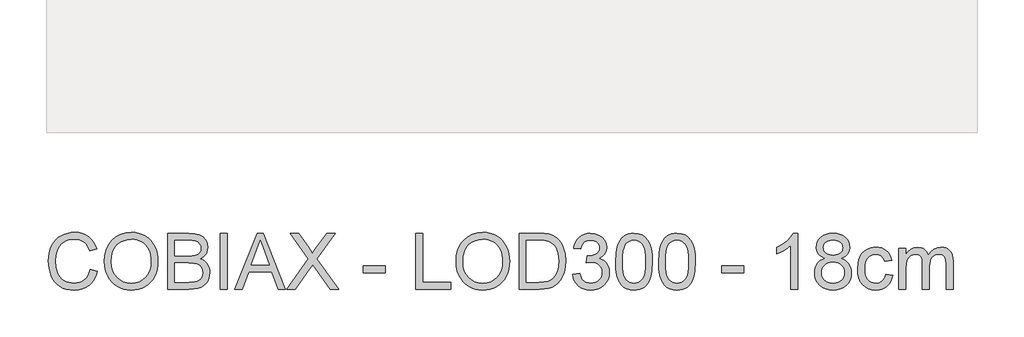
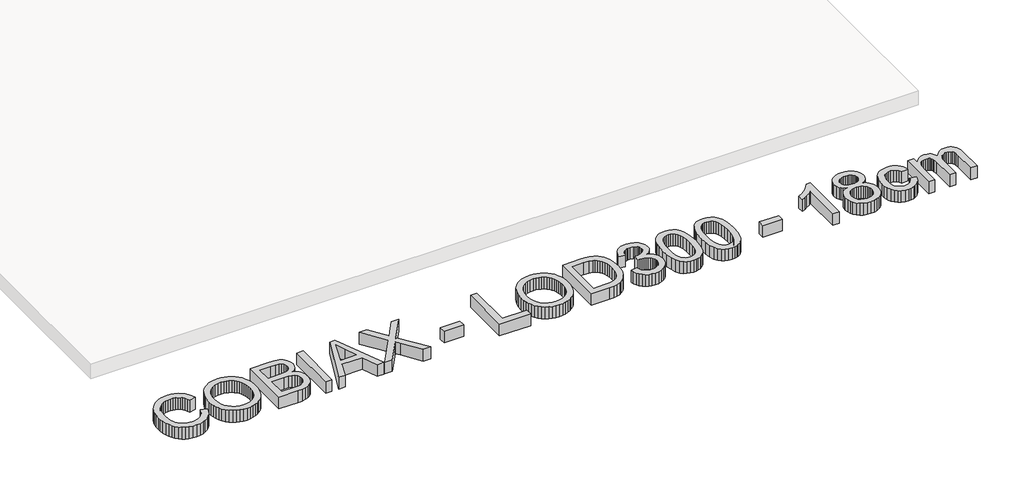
# One storey, part 17 of 18: 1 proxy.
"""IFC4 building model written with IfcOpenShell, lengths in millimetres."""

from ifc_helpers import new_model, si_unit, origin, origin_with_axes, place, context, project, spatial, polyline, outline, extrude, element, save

model = new_model("IFC4")

# Units and contexts
model_context = context("Model", 3, world=origin())
ifc_project = project(units=[si_unit("LENGTHUNIT", "METRE", prefix="MILLI")], contexts=[model_context])

# Site, building, storey
site = spatial("IfcSite", under=ifc_project)
building = spatial("IfcBuilding", under=site)
storey = spatial("IfcBuildingStorey", under=building, Name="COBIAX Slabs", Elevation=0.0)

# Proxy
placement = place(None, origin())
element("IfcBuildingElementProxy", 1, Name="600mm Arial", ObjectType="600mm Arial", at=placement, inside=storey, context=model_context, shape_type="SweptSolid", body=[
    extrude(outline(polyline([(-5201.7846047, 9905.258219), (-5126.4423721, 9885.8340497), (-5141.35079, 9838.9796791), (-5161.2072206, 9798.0390115), (-5186.0116642, 9763.0120471), (-5215.7641205, 9733.8987857), (-5249.7932051, 9711.0119271), (-5287.4275332, 9694.6641709), (-5328.6671048, 9684.8555172), (-5373.5119201, 9681.585966), (-5419.4557827, 9684.0599724), (-5460.902288, 9691.4819916), (-5497.8514359, 9703.8520237), (-5530.3032264, 9721.1700687), (-5558.7037164, 9743.178609), (-5583.4989629, 9769.6201274), (-5604.6889658, 9800.4946239), (-5622.2737252, 9835.8020983), (-5636.0830956, 9874.0158406), (-5645.9469316, 9913.6091403), (-5651.8652332, 9954.5819975), (-5653.8380004, 9996.9344122), (-5651.6077158, 10042.3770357), (-5644.916862, 10084.8214209), (-5633.765439, 10124.2675678), (-5618.1534469, 10160.7154765), (-5598.4303734, 10193.5627401), (-5574.9457065, 10222.206952), (-5547.6994462, 10246.648112), (-5516.6915926, 10266.8862203), (-5482.9752077, 10282.7557299), (-5447.6033539, 10294.0910938), (-5410.5760311, 10300.8923122), (-5371.8932393, 10303.159385), (-5328.8004621, 10300.2255261), (-5289.2853373, 10291.4239494), (-5253.3478649, 10276.7546548), (-5220.9880449, 10256.2176424), (-5192.7393062, 10230.3555382), (-5169.1350776, 10199.710968), (-5150.1753593, 10164.2839318), (-5135.8601512, 10124.0744298), (-5211.2023838, 10106.1217884), (-5223.0665781, 10135.7500846), (-5237.3220054, 10161.0649644), (-5253.9686657, 10182.0664278), (-5273.006559, 10198.7544748), (-5294.5460498, 10211.4693962), (-5318.6975028, 10220.551483), (-5345.4609179, 10226.0007351), (-5374.8362952, 10227.8171524), (-5408.6354535, 10225.8029985), (-5439.5467382, 10219.7605367), (-5467.5701492, 10209.6897671), (-5492.7056865, 10195.5906896), (-5514.6360519, 10178.0979008), (-5533.0439473, 10157.8459969), (-5547.9293725, 10134.8349781), (-5559.2923276, 10109.0648444), (-5573.6949077, 10053.9193333), (-5578.4957678, 9997.081565), (-5572.8119909, 9927.4782915), (-5565.7072699, 9896.208322), (-5555.7606605, 9867.2927971), (-5542.8112142, 9841.3065327), (-5526.6979829, 9818.8243443), (-5507.4209663, 9799.8462318), (-5484.9801646, 9784.3721954), (-5460.4654281, 9772.3654468), (-5434.9666074, 9763.7891978), (-5408.4837022, 9758.6434484), (-5381.0167128, 9756.9281986), (-5348.2614196, 9759.2642493), (-5318.1272857, 9766.2724013), (-5290.614311, 9777.9526546), (-5265.7224955, 9794.3050093), (-5244.0404504, 9815.2558889), (-5226.1567869, 9840.7317171), (-5212.071505, 9870.7324938), (-5201.7846047, 9905.258219)])), origin_with_axes(), (0.0, 0.0, 1.0), 150.0),
    extrude(outline(polyline([(-5051.1001395, 9984.4264244), (-5046.0785503, 10055.1241468), (-5031.0137825, 10117.7100713), (-5005.9058364, 10172.1841977), (-4989.5856714, 10196.3793367), (-4970.7547117, 10218.5465261), (-4927.6665331, 10255.5646519), (-4878.7474247, 10282.0061703), (-4823.9973868, 10297.8710813), (-4763.4164193, 10303.159385), (-4722.8666263, 10300.6761816), (-4684.3585785, 10293.2265712), (-4647.8922757, 10280.8105538), (-4613.467718, 10263.4281295), (-4582.0505956, 10241.6035302), (-4554.6065988, 10215.8609876), (-4531.1357275, 10186.2005017), (-4511.6379818, 10152.6220726), (-4496.3156967, 10115.8890554), (-4485.3712073, 10076.7648052), (-4478.8045137, 10035.249322), (-4476.6156158, 9991.3426059), (-4478.9194768, 9946.8564756), (-4485.8310598, 9904.7799724), (-4497.3503648, 9865.1130963), (-4513.4773917, 9827.8558473), (-4533.8304631, 9793.9923096), (-4558.0279014, 9764.5065677), (-4586.0697064, 9739.3986215), (-4617.9558784, 9718.6684711), (-4652.4310198, 9702.4448751), (-4688.2397335, 9690.8565922), (-4725.3820195, 9683.9036225), (-4763.8578777, 9681.585966), (-4805.1158434, 9684.1473444), (-4844.129729, 9691.8314795), (-4880.8995344, 9704.6383715), (-4915.4252597, 9722.5680202), (-4946.8055939, 9744.9260485), (-4974.1392261, 9771.018079), (-4997.4261564, 9800.8441118), (-5016.6663847, 9834.4041468), (-5031.7311524, 9870.3508162), (-5042.4917008, 9907.3367523), (-5048.9480298, 9945.361955), (-5051.1001395, 9984.4264244)]), holes=[polyline([(-4975.7579069, 9983.6906604), (-4971.9917149, 9933.7414825), (-4960.6931392, 9889.402505), (-4941.8621795, 9850.673728), (-4915.4988361, 9817.5551514), (-4883.4517158, 9791.0308595), (-4847.5694257, 9772.0849368), (-4807.8519657, 9760.7173831), (-4764.299336, 9756.9281986), (-4720.0017453, 9760.7541713), (-4679.8152359, 9772.2320896), (-4643.7398077, 9791.3619533), (-4611.7754608, 9818.1437626), (-4585.6052554, 9851.961315), (-4566.9122515, 9892.1984082), (-4555.6964492, 9938.8550422), (-4551.9578484, 9991.9312171), (-4553.5581351, 10026.4109571), (-4558.3589951, 10058.6282228), (-4566.3604285, 10088.5830143), (-4577.5624353, 10116.2753315), (-4591.8408552, 10141.3418909), (-4609.0715282, 10163.4194092), (-4629.2544541, 10182.5078862), (-4652.3896331, 10198.607322), (-4677.7596952, 10211.3866228), (-4704.6472705, 10220.5146948), (-4733.0523591, 10225.991538), (-4762.9749609, 10227.8171524), (-4805.0146759, 10224.2992808), (-4844.0193644, 10213.7456661), (-4879.9890265, 10196.1563082), (-4912.9236621, 10171.5312071), (-4940.4136442, 10138.6839435), (-4960.0493457, 10096.4280978), (-4971.8307666, 10044.7636701), (-4975.7579069, 9983.6906604)])]), origin_with_axes(), (0.0, 0.0, 1.0), 150.0),
    extrude(outline(polyline([(-4373.020046, 9691.003745), (-4373.020046, 10293.7416059), (-4143.0202226, 10293.7416059), (-4079.7629135, 10289.3086279), (-4030.3747557, 10276.0096938), (-4010.2975958, 10265.9527197), (-3992.5196984, 10253.5137098), (-3977.0410634, 10238.6926639), (-3963.8616909, 10221.4895821), (-3945.8170791, 10183.8184658), (-3939.8022085, 10144.3815159), (-3944.8605859, 10108.0899571), (-3960.0357182, 10073.968902), (-3985.43797, 10044.1152781), (-4021.1777058, 10020.6260127), (-3998.438, 10010.9323222), (-3978.4850002, 9998.3323638), (-3961.3187066, 9982.8261377), (-3946.9391192, 9964.4136439), (-3935.576164, 9943.6559023), (-3927.4597675, 9921.113933), (-3922.5899296, 9896.7877361), (-3920.9666503, 9870.6773115), (-3925.3996283, 9828.6467935), (-3938.6985625, 9789.6696962), (-3958.5457961, 9756.5235284), (-3982.6236727, 9731.9857993), (-4012.1094146, 9714.2170989), (-4048.1802442, 9701.3780173), (-4092.013384, 9693.5973131), (-4144.7860562, 9691.003745), (-4373.020046, 9691.003745)]), holes=[polyline([(-4297.6778134, 10048.87935), (-4160.0899472, 10048.87935), (-4111.9709822, 10050.4980307), (-4079.7445194, 10055.3540731), (-4051.6199409, 10066.5192916), (-4031.4048253, 10083.2395283), (-4019.2095371, 10105.2572657), (-4015.1444411, 10132.3149865), (-4018.9336256, 10158.5817609), (-4030.3011793, 10181.464021), (-4048.7320672, 10199.3246919), (-4073.7112547, 10210.5266986), (-4112.0445586, 10216.4312047), (-4170.5377958, 10218.3993733), (-4297.6778134, 10218.3993733), (-4297.6778134, 10048.87935)]), polyline([(-4297.6778134, 9766.3459777), (-4143.1673754, 9766.3459777), (-4087.2493121, 9769.2890336), (-4061.2952374, 9775.818939), (-4039.9396875, 9785.6965706), (-4022.5756574, 9799.8416333), (-4008.5961416, 9819.1738322), (-3999.3806976, 9842.8286445), (-3996.3088829, 9869.9415475), (-3999.9141265, 9901.4322463), (-4010.7298571, 9928.5083611), (-4029.6205976, 9949.67997), (-4057.4508705, 9963.4571507), (-4096.8694263, 9971.0171257), (-4150.5250153, 9973.5371173), (-4297.6778134, 9973.5371173), (-4297.6778134, 9766.3459777)])]), origin_with_axes(), (0.0, 0.0, 1.0), 150.0),
    extrude(outline(polyline([(-3807.9533014, 9691.003745), (-3807.9533014, 10293.7416059), (-3732.6110688, 10293.7416059), (-3732.6110688, 9691.003745), (-3807.9533014, 9691.003745)])), origin_with_axes(), (0.0, 0.0, 1.0), 150.0),
    extrude(outline(polyline([(-3652.1184882, 9691.003745), (-3411.5236634, 10293.7416059), (-3347.3650434, 10293.7416059), (-3106.7702186, 9691.003745), (-3186.3798823, 9691.003745), (-3255.3945446, 9879.3593266), (-3503.641315, 9879.3593266), (-3572.5088245, 9691.003745), (-3652.1184882, 9691.003745)]), holes=[polyline([(-3475.9765889, 9954.7015592), (-3282.9121179, 9954.7015592), (-3337.2115004, 10102.8844268), (-3379.4443534, 10218.3993733), (-3416.9683169, 10115.8338731), (-3475.9765889, 9954.7015592)])]), origin_with_axes(), (0.0, 0.0, 1.0), 150.0),
    extrude(outline(polyline([(-3092.2020916, 9691.003745), (-2859.8478234, 10019.4487903), (-3054.5309753, 10293.7416059), (-2964.1791572, 10293.7416059), (-2854.5503227, 10139.3783208), (-2828.3939128, 10100.2724647), (-2817.6149704, 10079.1928264), (-2774.3520477, 10140.4083904), (-2665.9004356, 10293.7416059), (-2574.2242424, 10293.7416059), (-2768.9073942, 10018.5658736), (-2536.5531261, 9691.003745), (-2626.9049441, 9691.003745), (-2781.7096876, 9909.3784974), (-2813.9361504, 9954.7015592), (-2849.3999748, 9904.9639134), (-3000.5258984, 9691.003745), (-3092.2020916, 9691.003745)])), origin_with_axes(), (0.0, 0.0, 1.0), 150.0),
    extrude(outline(polyline([(-2272.8553119, 9869.9415475), (-2272.8553119, 9945.2837801), (-2037.410835, 9945.2837801), (-2037.410835, 9869.9415475), (-2272.8553119, 9869.9415475)])), origin_with_axes(), (0.0, 0.0, 1.0), 150.0),
    extrude(outline(polyline([(-1707.7885673, 9691.003745), (-1707.7885673, 10293.7416059), (-1632.4463347, 10293.7416059), (-1632.4463347, 9766.3459777), (-1331.0774043, 9766.3459777), (-1331.0774043, 9691.003745), (-1707.7885673, 9691.003745)])), origin_with_axes(), (0.0, 0.0, 1.0), 150.0),
    extrude(outline(polyline([(-1274.5707298, 9984.4264244), (-1269.5491406, 10055.1241468), (-1254.4843729, 10117.7100713), (-1229.3764267, 10172.1841977), (-1213.0562617, 10196.3793367), (-1194.2253021, 10218.5465261), (-1151.1371234, 10255.5646519), (-1102.2180151, 10282.0061703), (-1047.4679771, 10297.8710813), (-986.8870096, 10303.159385), (-946.3372167, 10300.6761816), (-907.8291688, 10293.2265712), (-871.362866, 10280.8105538), (-836.9383083, 10263.4281295), (-805.5211859, 10241.6035302), (-778.0771891, 10215.8609876), (-754.6063178, 10186.2005017), (-735.1085721, 10152.6220726), (-719.786287, 10115.8890554), (-708.8417976, 10076.7648052), (-702.275104, 10035.249322), (-700.0862061, 9991.3426059), (-702.3900671, 9946.8564756), (-709.3016501, 9904.7799724), (-720.8209551, 9865.1130963), (-736.947982, 9827.8558473), (-757.3010534, 9793.9923096), (-781.4984917, 9764.5065677), (-809.5402967, 9739.3986215), (-841.4264687, 9718.6684711), (-875.9016102, 9702.4448751), (-911.7103239, 9690.8565922), (-948.8526098, 9683.9036225), (-987.328468, 9681.585966), (-1028.5864337, 9684.1473444), (-1067.6003193, 9691.8314795), (-1104.3701247, 9704.6383715), (-1138.89585, 9722.5680202), (-1170.2761842, 9744.9260485), (-1197.6098164, 9771.018079), (-1220.8967467, 9800.8441118), (-1240.1369751, 9834.4041468), (-1255.2017428, 9870.3508162), (-1265.9622911, 9907.3367523), (-1272.4186201, 9945.361955), (-1274.5707298, 9984.4264244)]), holes=[polyline([(-1199.2284972, 9983.6906604), (-1195.4623053, 9933.7414825), (-1184.1637295, 9889.402505), (-1165.3327699, 9850.673728), (-1138.9694264, 9817.5551514), (-1106.9223061, 9791.0308595), (-1071.040016, 9772.0849368), (-1031.3225561, 9760.7173831), (-987.7699264, 9756.9281986), (-943.4723356, 9760.7541713), (-903.2858262, 9772.2320896), (-867.210398, 9791.3619533), (-835.2460512, 9818.1437626), (-809.0758457, 9851.961315), (-790.3828418, 9892.1984082), (-779.1670395, 9938.8550422), (-775.4284387, 9991.9312171), (-777.0287254, 10026.4109571), (-781.8295855, 10058.6282228), (-789.8310189, 10088.5830143), (-801.0330256, 10116.2753315), (-815.3114455, 10141.3418909), (-832.5421185, 10163.4194092), (-852.7250445, 10182.5078862), (-875.8602234, 10198.607322), (-901.2302855, 10211.3866228), (-928.1178608, 10220.5146948), (-956.5229494, 10225.991538), (-986.4455512, 10227.8171524), (-1028.4852662, 10224.2992808), (-1067.4899547, 10213.7456661), (-1103.4596168, 10196.1563082), (-1136.3942524, 10171.5312071), (-1163.8842345, 10138.6839435), (-1183.519936, 10096.4280978), (-1195.3013569, 10044.7636701), (-1199.2284972, 9983.6906604)])]), origin_with_axes(), (0.0, 0.0, 1.0), 150.0),
    extrude(outline(polyline([(-596.4906363, 9691.003745), (-596.4906363, 10293.7416059), (-388.5637326, 10293.7416059), (-326.4284636, 10291.5711022), (-280.9950372, 10285.0595909), (-232.9496487, 10268.3209601), (-192.4090528, 10241.943821), (-170.0694186, 10220.3859361), (-150.7280227, 10196.032148), (-134.3848651, 10168.8824568), (-121.0399457, 10138.9368624), (-110.6748705, 10106.4712763), (-103.2712454, 10071.7616101), (-97.3483452, 9995.6100371), (-101.358259, 9930.9179882), (-113.3880002, 9873.9882494), (-131.7085236, 9825.5197966), (-154.5907837, 9786.2116054), (-180.9311345, 9755.1807591), (-209.6259302, 9731.5443409), (-242.5697628, 9714.0147638), (-281.6572248, 9701.3044409), (-326.9618925, 9693.578919), (-378.5573423, 9691.003745), (-596.4906363, 9691.003745)]), holes=[polyline([(-521.1484037, 9766.3459777), (-387.8279686, 9766.3459777), (-332.6824575, 9769.0683044), (-290.8542747, 9777.2352847), (-259.2899995, 9790.3686719), (-234.9362114, 9807.9902195), (-208.7614075, 9840.6029584), (-189.0981148, 9882.8174173), (-176.7924621, 9934.8175374), (-172.6905778, 9996.7872594), (-174.7001332, 10040.5284287), (-180.7287994, 10078.8985208), (-190.7765764, 10111.8975357), (-204.8434642, 10139.5254736), (-221.7890286, 10162.4077337), (-240.4728355, 10181.1697154), (-260.8948847, 10195.8114188), (-283.0551764, 10206.3328439), (-326.3916754, 10215.382741), (-389.8881078, 10218.3993733), (-521.1484037, 10218.3993733), (-521.1484037, 9766.3459777)])]), origin_with_axes(), (0.0, 0.0, 1.0), 150.0),
    extrude(outline(polyline([(-22.0061126, 9851.1059893), (53.33612, 9860.5237684), (70.2035095, 9813.1773556), (81.5756616, 9795.2706995), (94.9067854, 9781.2084103), (110.5003835, 9770.5858177), (128.6599585, 9762.9982515), (149.3855104, 9758.4457118), (172.6770392, 9756.9281986), (199.9738833, 9759.0159289), (224.3276713, 9765.2791199), (245.7384035, 9775.7177715), (264.2060796, 9790.3318837), (279.0777093, 9808.0270077), (289.7003019, 9827.7086945), (296.0738575, 9849.376944), (298.198376, 9873.0317563), (296.0922516, 9895.5599299), (289.7738783, 9916.0555556), (279.2432562, 9934.5186332), (264.5003852, 9950.9491628), (246.5109557, 9964.4366365), (226.2406577, 9974.0705462), (203.6894914, 9979.8508921), (178.8574567, 9981.777674), (155.0554917, 9979.7175349), (126.0296022, 9973.5371173), (134.4173117, 10048.87935), (146.4838412, 10047.9964332), (191.622962, 10053.4042985), (231.9796168, 10069.6278945), (248.5894889, 10081.896759), (260.4536833, 10097.0718913), (267.5721999, 10115.1532914), (269.9450388, 10136.1409592), (268.2251904, 10153.1784941), (263.0656454, 10168.6801217), (254.4664038, 10182.6458419), (242.4274655, 10195.0756548), (227.6753975, 10205.2797817), (210.9367667, 10212.5684437), (171.4998168, 10218.3993733), (150.8432428, 10216.9278454), (131.9892906, 10212.5132614), (114.9379601, 10205.1556215), (99.6892514, 10194.8549256), (86.6202435, 10181.6111738), (76.1080155, 10165.424366), (68.1525673, 10146.2945023), (62.7538991, 10124.2215826), (-12.5883335, 10133.6393616), (-3.6579981, 10169.6090237), (9.5949508, 10201.2928606), (27.1705131, 10228.6908721), (49.0686888, 10251.8030585), (74.5996993, 10270.151173), (103.0737657, 10283.2569691), (134.4908881, 10291.1204467), (168.8510665, 10293.7416059), (216.2158734, 10288.5728639), (259.7179193, 10273.0666378), (296.3957542, 10248.6024851), (323.2879281, 10216.5599634), (339.7874355, 10179.6430051), (345.2872714, 10140.5555432), (340.063347, 10104.1352256), (324.391574, 10071.0994225), (298.4926816, 10042.9564498), (262.5873988, 10021.2146239), (287.695345, 10013.3603433), (309.7498706, 10002.1583366), (328.7509757, 9987.6086037), (344.6986602, 9969.7111446), (357.3170126, 9948.9074178), (366.3301215, 9925.6388816), (371.7379868, 9899.905536), (373.5406086, 9871.7073811), (369.935365, 9833.4844418), (359.1196344, 9798.2781348), (341.0934166, 9766.0884603), (315.8567117, 9736.915418), (285.110974, 9712.7087828), (250.5576576, 9695.418329), (212.1967626, 9685.0440567), (170.0282889, 9681.585966), (131.9157142, 9684.538219), (97.1876538, 9693.394978), (65.8441078, 9708.1562431), (37.8850762, 9728.8220142), (14.4417961, 9754.1782807), (-3.3544955, 9783.011032), (-15.5037984, 9815.3202683), (-22.0061126, 9851.1059893)])), origin_with_axes(), (0.0, 0.0, 1.0), 150.0),
    extrude(outline(polyline([(439.4650621, 9987.5166332), (445.0016862, 10083.9936864), (451.9224662, 10124.9067628), (461.6115582, 10160.9362057), (474.0275756, 10192.3763207), (489.1291315, 10219.5214134), (506.9162259, 10242.3714838), (527.388859, 10260.926532), (550.6160084, 10275.2831268), (576.6666522, 10285.5378375), (605.5407903, 10291.6906638), (637.2384227, 10293.7416059), (683.6651305, 10288.8855636), (725.235796, 10274.3174366), (760.0006445, 10250.607442), (786.0099016, 10218.3257969), (805.6548001, 10177.7484129), (821.3265731, 10129.1512013), (831.5904808, 10067.4389966), (835.0117833, 9987.5166332), (829.5303416, 9891.5914029), (822.6785395, 9850.8162823), (813.0860164, 9814.8328246), (800.7665681, 9783.378914), (785.7339901, 9756.1924346), (767.9882823, 9733.2733863), (747.5294449, 9714.6217691), (724.2747043, 9700.1686053), (698.141287, 9689.8449168), (669.1291932, 9683.6507037), (637.2384227, 9681.585966), (595.7413337, 9685.1728154), (558.9531342, 9695.9333638), (526.8738242, 9713.867611), (499.5034037, 9738.9755572), (473.2366293, 9784.3629984), (454.4746475, 9840.9156581), (443.2174585, 9908.6335363), (439.4650621, 9987.5166332)]), holes=[polyline([(514.8072947, 9987.663786), (517.0145867, 9922.1669952), (523.6364626, 9869.1506012), (534.6729225, 9828.6146039), (550.1239663, 9800.5590032), (568.8123716, 9781.4705262), (589.5609162, 9767.8358997), (612.3695999, 9759.6551239), (637.2384227, 9756.9281986), (662.1072456, 9759.6643209), (684.9159293, 9767.8726879), (705.6644738, 9781.5532996), (724.3528792, 9800.706156), (739.803923, 9828.8077419), (750.8403828, 9869.3345422), (757.4622588, 9922.2865569), (759.6695507, 9987.663786), (757.5358352, 10051.4269328), (751.1346884, 10103.5098262), (740.4661106, 10143.9124664), (725.5301016, 10172.6348531), (707.1543959, 10192.6568307), (686.1667281, 10206.9582433), (662.5670981, 10215.5390908), (636.3555059, 10218.3993733), (611.6154418, 10215.8793817), (589.1930342, 10208.3194067), (569.0882831, 10195.7194483), (551.3011887, 10178.0795067), (535.3351101, 10146.8095371), (523.9307682, 10104.6502604), (517.0881631, 10051.6016767), (514.8072947, 9987.663786)])]), origin_with_axes(), (0.0, 0.0, 1.0), 150.0),
    extrude(outline(polyline([(900.9362369, 9987.5166332), (906.4728609, 10083.9936864), (913.3936409, 10124.9067628), (923.082733, 10160.9362057), (935.4987503, 10192.3763207), (950.6003062, 10219.5214134), (968.3874007, 10242.3714838), (988.8600337, 10260.926532), (1012.0871832, 10275.2831268), (1038.137827, 10285.5378375), (1067.0119651, 10291.6906638), (1098.7095975, 10293.7416059), (1145.1363053, 10288.8855636), (1186.7069707, 10274.3174366), (1221.4718193, 10250.607442), (1247.4810763, 10218.3257969), (1267.1259749, 10177.7484129), (1282.7977479, 10129.1512013), (1293.0616555, 10067.4389966), (1296.4829581, 9987.5166332), (1291.0015164, 9891.5914029), (1284.1497142, 9850.8162823), (1274.5571912, 9814.8328246), (1262.2377429, 9783.378914), (1247.2051648, 9756.1924346), (1229.4594571, 9733.2733863), (1209.0006196, 9714.6217691), (1185.745879, 9700.1686053), (1159.6124618, 9689.8449168), (1130.6003679, 9683.6507037), (1098.7095975, 9681.585966), (1057.2125084, 9685.1728154), (1020.4243089, 9695.9333638), (988.3449989, 9713.867611), (960.9745785, 9738.9755572), (934.707804, 9784.3629984), (915.9458223, 9840.9156581), (904.6886332, 9908.6335363), (900.9362369, 9987.5166332)]), holes=[polyline([(976.2784695, 9987.663786), (978.4857615, 9922.1669952), (985.1076374, 9869.1506012), (996.1440972, 9828.6146039), (1011.595141, 9800.5590032), (1030.2835464, 9781.4705262), (1051.0320909, 9767.8358997), (1073.8407746, 9759.6551239), (1098.7095975, 9756.9281986), (1123.5784204, 9759.6643209), (1146.3871041, 9767.8726879), (1167.1356486, 9781.5532996), (1185.8240539, 9800.706156), (1201.2750977, 9828.8077419), (1212.3115576, 9869.3345422), (1218.9334335, 9922.2865569), (1221.1407255, 9987.663786), (1219.0070099, 10051.4269328), (1212.6058632, 10103.5098262), (1201.9372853, 10143.9124664), (1187.0012763, 10172.6348531), (1168.6255707, 10192.6568307), (1147.6379028, 10206.9582433), (1124.0382729, 10215.5390908), (1097.8266807, 10218.3993733), (1073.0866165, 10215.8793817), (1050.6642089, 10208.3194067), (1030.5594579, 10195.7194483), (1012.7723634, 10178.0795067), (996.8062848, 10146.8095371), (985.401943, 10104.6502604), (978.5593379, 10051.6016767), (976.2784695, 9987.663786)])]), origin_with_axes(), (0.0, 0.0, 1.0), 150.0),
    extrude(outline(polyline([(1579.0163304, 9869.9415475), (1579.0163304, 9945.2837801), (1814.4608073, 9945.2837801), (1814.4608073, 9869.9415475), (1579.0163304, 9869.9415475)])), origin_with_axes(), (0.0, 0.0, 1.0), 150.0),
    extrude(outline(polyline([(2398.36311, 9691.003745), (2323.0208774, 9691.003745), (2323.0208774, 10160.7154765), (2291.5669668, 10135.2764365), (2251.6517704, 10109.8741848), (2209.7500111, 10087.6725063), (2172.3364122, 10071.8351865), (2172.3364122, 10143.0571407), (2231.5102311, 10175.2468153), (2282.7745872, 10213.543331), (2323.1864243, 10254.2678679), (2349.8026867, 10293.7416059), (2398.36311, 10293.7416059), (2398.36311, 9691.003745)])), origin_with_axes(), (0.0, 0.0, 1.0), 150.0),
    extrude(outline(polyline([(2687.0768999, 10022.9804575), (2646.7386391, 10042.8460852), (2631.0806617, 10055.4276495), (2618.4301196, 10069.7750473), (2601.7098829, 10103.2155206), (2596.1364707, 10142.6156823), (2599.1714971, 10173.343026), (2608.2765765, 10201.5135898), (2623.4517088, 10227.1273737), (2644.696894, 10250.1843777), (2670.9912596, 10269.2406651), (2701.3139331, 10282.8522989), (2735.6649144, 10291.0192792), (2774.0442035, 10293.7416059), (2812.6074337, 10290.9548998), (2847.2159324, 10282.5947815), (2877.8696996, 10268.6612509), (2904.5687354, 10249.1543081), (2926.2001967, 10225.6466486), (2941.6512405, 10199.710968), (2950.9218668, 10171.3472661), (2954.0120756, 10140.5555432), (2948.5122397, 10102.4245744), (2932.0127322, 10069.5543181), (2919.5921164, 10055.3034893), (2904.3296121, 10042.7909029), (2865.2789383, 10022.9804575), (2890.0419951, 10012.4452369), (2911.6504638, 9999.0865219), (2930.1043444, 9982.9043126), (2945.4036369, 9963.8986091), (2957.4103855, 9942.4924755), (2965.9866345, 9919.1089762), (2971.1323839, 9893.7481111), (2972.8476337, 9866.4098803), (2969.4447253, 9828.8307345), (2959.2359999, 9794.3785857), (2942.2214576, 9763.0534338), (2918.4010984, 9734.8552789), (2889.0257211, 9711.5499545), (2855.3461245, 9694.9032942), (2817.3623085, 9684.915298), (2775.0742731, 9681.585966), (2732.7862378, 9684.9290936), (2694.8024218, 9694.9584765), (2661.1228251, 9711.6741147), (2631.7474478, 9735.0760081), (2607.9270886, 9763.4718996), (2590.9125463, 9795.169532), (2580.703821, 9830.1689053), (2577.3009125, 9868.4700195), (2579.0851402, 9897.0544505), (2584.4378232, 9923.2108604), (2593.3589616, 9946.9392491), (2605.8485553, 9968.2396166), (2621.6306929, 9986.7256869), (2640.4294629, 10002.0111838), (2662.2448652, 10014.0961073), (2687.0768999, 10022.9804575)]), holes=[polyline([(2671.4787033, 10140.4083904), (2673.1479678, 10123.1363307), (2678.1557615, 10107.51974), (2686.5020842, 10093.5586183), (2698.1869361, 10081.2529655), (2713.0631643, 10071.2097871), (2730.983616, 10064.0360882), (2751.9482912, 10059.7318688), (2775.9571899, 10058.297129), (2799.3728789, 10059.7226718), (2819.8823001, 10063.9993), (2837.4854536, 10071.1270136), (2852.1823393, 10081.1058127), (2863.7706221, 10093.1539481), (2872.047967, 10106.4896704), (2877.014374, 10121.1129797), (2878.6698429, 10137.023876), (2876.9591917, 10153.5555732), (2871.8272378, 10168.7169099), (2863.2739815, 10182.5078862), (2851.2994225, 10194.928502), (2836.271443, 10205.1970082), (2818.5579249, 10212.5316555), (2798.1588683, 10216.9324439), (2775.0742731, 10218.3993733), (2751.8103354, 10216.9646336), (2731.3147098, 10212.6604142), (2713.5873961, 10205.4867153), (2698.6283945, 10195.4435368), (2686.7504046, 10183.3954015), (2678.2661261, 10170.206832), (2673.175559, 10155.8778283), (2671.4787033, 10140.4083904)]), polyline([(2652.6431451, 9871.1187699), (2655.7885362, 9842.2952156), (2665.2247093, 9814.3913662), (2682.6439218, 9790.0559722), (2709.7384308, 9771.937784), (2742.1856227, 9760.6805949), (2775.6628843, 9756.9281986), (2802.904546, 9758.9009658), (2826.9456344, 9764.8192674), (2847.7861495, 9774.6831034), (2865.4260911, 9788.4924738), (2879.4607892, 9805.3460677), (2889.4855736, 9824.3425742), (2895.5004442, 9845.4819933), (2897.5054011, 9868.7643251), (2895.4360649, 9892.4191374), (2889.2280562, 9913.9402341), (2878.8813751, 9933.3276153), (2864.3960215, 9950.5812808), (2846.2778333, 9964.7447377), (2825.0326481, 9974.8614925), (2800.6604659, 9980.9315454), (2773.1612867, 9982.9548964), (2746.3196967, 9980.9591366), (2722.5959065, 9974.9718571), (2701.9899162, 9964.993058), (2684.5017259, 9951.0227392), (2670.5635968, 9934.0541822), (2660.6077903, 9915.0806683), (2654.6343064, 9894.1021975), (2652.6431451, 9871.1187699)])]), origin_with_axes(), (0.0, 0.0, 1.0), 150.0),
    extrude(outline(polyline([(3340.1410177, 9851.1059893), (3415.4832503, 9841.6882103), (3407.2886789, 9806.137014), (3394.4771884, 9774.6785048), (3377.0487789, 9747.3126829), (3355.0034503, 9724.0395482), (3329.2701047, 9705.466106), (3300.7776442, 9692.1993615), (3269.5260687, 9684.2393149), (3235.5153783, 9681.585966), (3193.2595326, 9685.2877785), (3155.3722856, 9696.3932163), (3121.8536373, 9714.9022792), (3092.7035877, 9740.8149672), (3069.1085563, 9773.6438367), (3052.2549624, 9812.9014441), (3042.142806, 9858.5877894), (3038.7720873, 9910.7028726), (3044.5294405, 9977.7493662), (3051.726132, 10007.9202883), (3061.8015001, 10035.8563273), (3074.8245228, 10060.9964632), (3090.8641778, 10082.7796758), (3109.9204651, 10101.2059652), (3131.9933848, 10116.2753315), (3156.085057, 10127.992373), (3181.1976017, 10136.3616884), (3207.3310189, 10141.3832776), (3234.4853087, 10143.0571407), (3267.9119865, 10140.7578783), (3298.1472879, 10133.8600908), (3325.1912131, 10122.3637785), (3349.043762, 10106.2689412), (3369.3002643, 10085.943461), (3385.55605, 10061.7552198), (3397.811119, 10033.7042177), (3406.0654712, 10001.7904546), (3330.7232386, 9992.3726755), (3317.0564225, 10025.2429318), (3295.7744491, 10048.8057736), (3268.0545407, 10062.9876245), (3235.0739199, 10067.7149081), (3209.4739315, 10065.3880545), (3186.3847378, 10058.4074936), (3165.8063387, 10046.7732255), (3147.7387342, 10030.4852502), (3133.0280529, 10009.1664886), (3122.5204235, 9982.4398616), (3116.2158458, 9950.3053693), (3114.1143199, 9912.7630117), (3116.1698605, 9874.6550356), (3122.3364825, 9842.1480628), (3132.6141857, 9815.2420933), (3147.0029702, 9793.9371273), (3164.7118898, 9777.745721), (3184.949998, 9766.1804308), (3207.717295, 9759.2412566), (3233.0137807, 9756.9281986), (3272.0276663, 9762.7039459), (3288.8996543, 9769.9236301), (3304.0150058, 9780.0311879), (3316.9506564, 9793.136984), (3327.283542, 9809.3513829), (3335.0136624, 9828.6743847), (3340.1410177, 9851.1059893)])), origin_with_axes(), (0.0, 0.0, 1.0), 150.0),
    extrude(outline(polyline([(3481.4077038, 9691.003745), (3481.4077038, 10133.6393616), (3556.7499365, 10133.6393616), (3556.7499365, 10060.7987266), (3579.4114674, 10094.2575941), (3608.5477214, 10120.4691862), (3643.1654171, 10137.4101521), (3682.2712732, 10143.0571407), (3724.1730325, 10137.2997875), (3742.0061122, 10130.103096), (3757.7606586, 10120.0277278), (3782.8502107, 10092.3813959), (3799.2577477, 10055.5012259), (3826.7201386, 10093.8069386), (3858.0452905, 10121.168162), (3893.2332033, 10137.584896), (3932.2838771, 10143.0571407), (3962.4456022, 10140.7808709), (3988.9193103, 10133.9520613), (4011.7050014, 10122.5707121), (4030.8026754, 10106.6368232), (4045.8996328, 10085.9664536), (4056.6831738, 10060.3756623), (4063.1532984, 10029.8644493), (4065.3100066, 9994.4328147), (4065.3100066, 9691.003745), (3989.967774, 9691.003745), (3989.967774, 9962.0591991), (3988.2203345, 9999.6383449), (3982.9780161, 10024.9670203), (3973.1555668, 10042.3126563), (3957.6677348, 10055.9426843), (3937.7469248, 10064.7718521), (3914.6255414, 10067.7149081), (3893.2745901, 10065.8295129), (3873.809034, 10060.1733272), (3856.2288732, 10050.7463511), (3840.5341075, 10037.5485845), (3827.626048, 10020.1937514), (3818.4060055, 9998.2955756), (3812.87398, 9971.8540572), (3811.0299715, 9940.8691962), (3811.0299715, 9691.003745), (3735.6877389, 9691.003745), (3735.6877389, 9970.4469086), (3731.3283373, 10013.0476436), (3725.8790852, 10029.7678803), (3718.2501323, 10043.4346964), (3708.137976, 10054.057289), (3695.2391135, 10061.6448552), (3679.553545, 10066.1973949), (3661.0812703, 10067.7149081), (3632.0553809, 10063.6682062), (3605.3103598, 10051.5281003), (3583.2374401, 10031.5888962), (3568.2278547, 10004.1448993), (3559.619416, 9966.0691128), (3556.7499365, 9914.2345397), (3556.7499365, 9691.003745), (3481.4077038, 9691.003745)])), origin_with_axes(), (0.0, 0.0, 1.0), 150.0),
])

save(model, "model.ifc")
